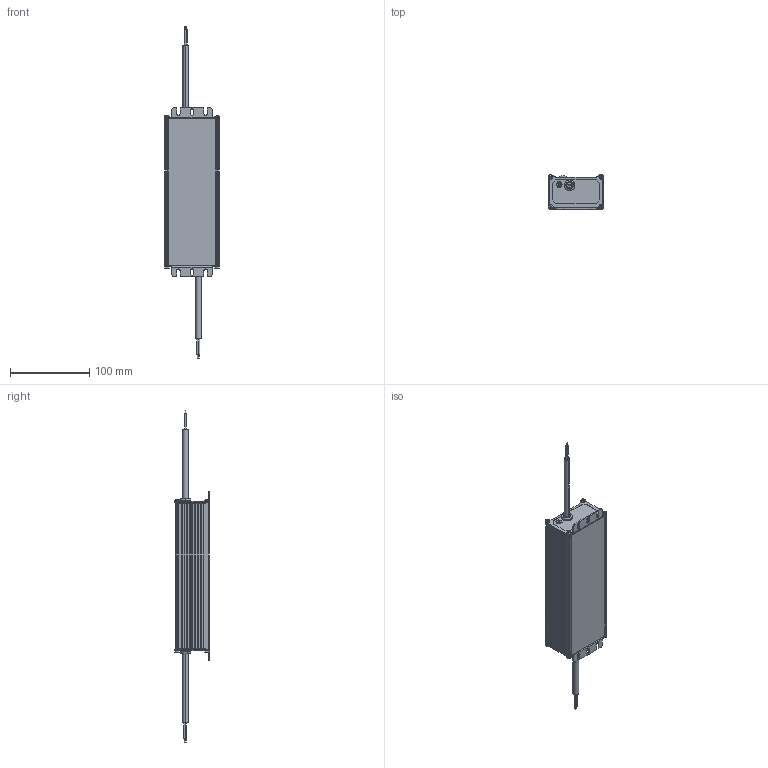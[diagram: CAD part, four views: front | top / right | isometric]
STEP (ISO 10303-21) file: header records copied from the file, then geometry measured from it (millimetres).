
FILE_DESCRIPTION (( 'STEP AP214' ), '1' );
FILE_NAME ('HC_100W_Assy.STEP', '2018-08-09T03:37:01', ( '' ), ( '' ), 'SwSTEP 2.0', 'SolidWorks 2015', '' );
FILE_SCHEMA (( 'AUTOMOTIVE_DESIGN' ));
Length unit declared in the file: millimetre
Products named in the file (22): block_Standard; cross recessed thread forming screws gb_GB_CROSS_SCREWS_TYPE138 M3X6-N; gasket; cable_bushing_2c; cable_bushing_3c; cover_100W_150; Thermal PAD 15x15x4; base_100W_100; sec potting_100W_Standard; 1st potting_100W_2nd; HC_100W_Assy; adj_tube_Standard; TIE_Standard; PCBA_100W_Standard; ground wire input_100W_Standard; output cable_100W; input cable_100W; ground wire output_100W_Standard; 022_185085_1500_L08_H145; 3362F_Standard; cap_out_out; Part1^Explode_100W_Standard
Assembly tree (31 placements, depth 3):
  HC_100W_Assy
    base_100W_100
    cover_100W_150
    cable_bushing_3c
    cable_bushing_2c
    gasket  x2
    cross recessed thread forming screws gb_GB_CROSS_SCREWS_TYPE138 M3X6-N  x9
    block_Standard
    cap_out_out  x2
    PCBA_100W_Standard
      3362F_Standard
      022_185085_1500_L08_H145
      ground wire output_100W_Standard
      input cable_100W
      output cable_100W
      ground wire input_100W_Standard
    TIE_Standard  x2
    adj_tube_Standard
    1st potting_100W_2nd
    sec potting_100W_Standard
    Thermal PAD 15x15x4
  Part1^Explode_100W_Standard
Bounding box: 69.61 x 43.5 x 417.95 mm (x, y, z)
Volume: 492563 mm3; surface area: 184813.6 mm2
Topology: 32 solids, 32 shells, 1215 faces, 3074 edges, 1984 vertices
Faces by surface type: plane 599, cylinder 443, torus 93, cone 46, sphere 26, bspline 8
Entity records: 27719 total; most frequent: CARTESIAN_POINT 4809, DIRECTION 4548, ORIENTED_EDGE 4086, EDGE_CURVE 2043, AXIS2_PLACEMENT_3D 1671, VERTEX_POINT 1316, VECTOR 1206, LINE 1206
